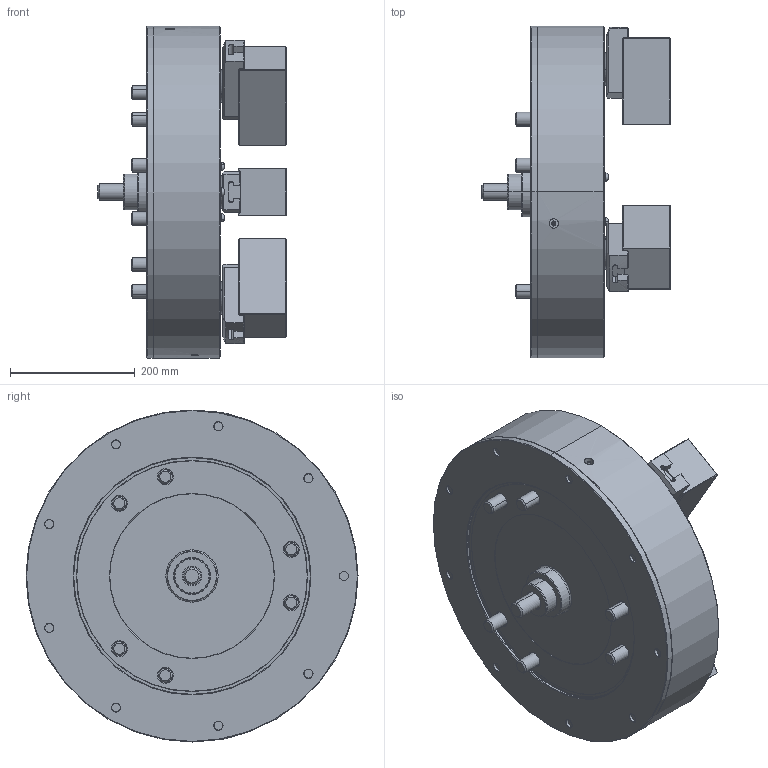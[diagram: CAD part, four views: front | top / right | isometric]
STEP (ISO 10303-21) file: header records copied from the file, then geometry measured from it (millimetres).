
FILE_DESCRIPTION (( 'STEP AP214' ), '1' );
FILE_NAME ('PW-21_CL.STEP', '2023-07-28T02:38:38', ( '' ), ( '' ), 'SwSTEP 2.0', 'SolidWorks 2020', '' );
FILE_SCHEMA (( 'AUTOMOTIVE_DESIGN' ));
Length unit declared in the file: millimetre
Products named in the file (5): Part41^61P118462_dummy; PW-21_61P326096_ソフトジョー; PW-21_CL; 0030120030; 61P422878
Assembly tree (13 placements, depth 2):
  PW-21_CL
    PW-21_61P326096_ソフトジョー  x3
    61P422878  x3
    0030120030  x6
    Part41^61P118462_dummy
Bounding box: 302 x 533 x 533 mm (x, y, z)
Volume: 28471330.8 mm3; surface area: 1169403.8 mm2
Topology: 13 solids, 17 shells, 3194 faces, 8226 edges, 5332 vertices
Faces by surface type: plane 1879, bspline 584, cone 372, cylinder 319, torus 32, sphere 8
Entity records: 112266 total; most frequent: CARTESIAN_POINT 43987, ORIENTED_EDGE 15284, DIRECTION 11698, EDGE_CURVE 7642, VECTOR 5114, LINE 5114, VERTEX_POINT 4989, AXIS2_PLACEMENT_3D 3292
